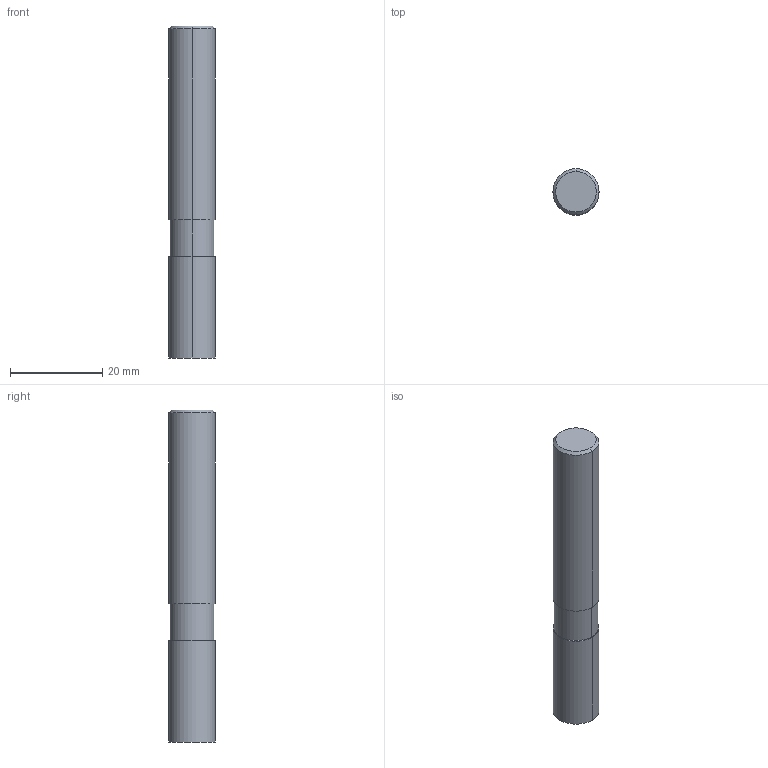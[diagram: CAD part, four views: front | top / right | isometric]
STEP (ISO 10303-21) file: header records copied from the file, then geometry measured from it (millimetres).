
FILE_DESCRIPTION((''),'2;1');
FILE_NAME('DIN4003_82_HEURO','2016-04-11T',('automc'),(''),'PRO/ENGINEER BY PARAMETRIC TECHNOLOGY CORPORATION, 2015280','PRO/ENGINEER BY PARAMETRIC TECHNOLOGY CORPORATION, 2015280','');
FILE_SCHEMA(('AUTOMOTIVE_DESIGN { 1 0 10303 214 1 1 1 1 }'));
Length unit declared in the file: millimetre
Products named in the file (1): DIN4003_82_HEURO
Bounding box: 10 x 10 x 72 mm (x, y, z)
Volume: 5588.2 mm3; surface area: 2410.3 mm2
Topology: 1 solids, 1 shells, 12 faces, 24 edges, 17 vertices
Faces by surface type: bspline 12
Entity records: 704 total; most frequent: CARTESIAN_POINT 219, DIRECTION 68, ORIENTED_EDGE 44, AXIS2_PLACEMENT_3D 26, PRESENTATION_STYLE_ASSIGNMENT 23, STYLED_ITEM 23, EDGE_CURVE 22, VECTOR 16
